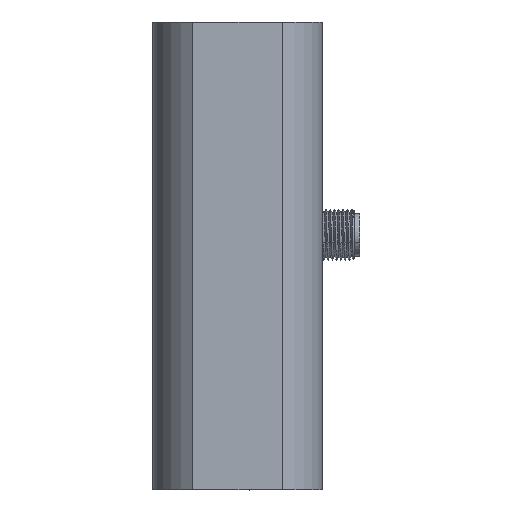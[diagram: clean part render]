
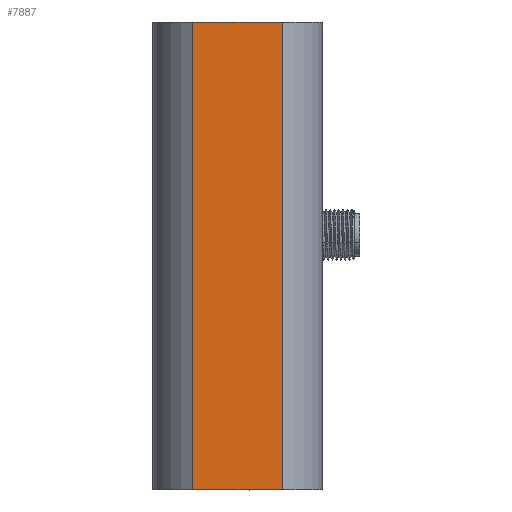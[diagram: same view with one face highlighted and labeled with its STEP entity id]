
A CAD part, front view. The second image highlights one B-rep face of the part: STEP entity #7887.
In plain terms, the highlighted planar face has unit normal (0, -1, 0).
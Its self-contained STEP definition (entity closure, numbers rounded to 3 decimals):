
#5795=FACE_OUTER_BOUND('',#9939,.T.);
#7887=ADVANCED_FACE('',(#5795),#8292,.F.);
#8292=PLANE('',#22849);
#9939=EDGE_LOOP('',(#15257,#15258,#15259,#15260));
#15257=ORIENTED_EDGE('',*,*,#19152,.T.);
#15258=ORIENTED_EDGE('',*,*,#19155,.T.);
#15259=ORIENTED_EDGE('',*,*,#19144,.T.);
#15260=ORIENTED_EDGE('',*,*,#19150,.F.);
#16806=VERTEX_POINT('',#42938);
#16807=VERTEX_POINT('',#42939);
#16811=VERTEX_POINT('',#42949);
#16813=VERTEX_POINT('',#42955);
#19144=EDGE_CURVE('',#16806,#16807,#20227,.T.);
#19150=EDGE_CURVE('',#16811,#16807,#20229,.T.);
#19152=EDGE_CURVE('',#16811,#16813,#20231,.T.);
#19155=EDGE_CURVE('',#16813,#16806,#20233,.T.);
#20227=LINE('',#42937,#21399);
#20229=LINE('',#42951,#21401);
#20231=LINE('',#42954,#21403);
#20233=LINE('',#42960,#21405);
#21399=VECTOR('',#26811,1.);
#21401=VECTOR('',#26823,1.);
#21403=VECTOR('',#26827,1.);
#21405=VECTOR('',#26833,1.);
#22849=AXIS2_PLACEMENT_3D('',#46488,#26895,#26896);
#26811=DIRECTION('',(0.,0.,-1.));
#26823=DIRECTION('',(-1.,0.,0.));
#26827=DIRECTION('',(0.,0.,1.));
#26833=DIRECTION('',(-1.,0.,0.));
#26895=DIRECTION('',(0.,1.,0.));
#26896=DIRECTION('',(-1.,0.,0.));
#42937=CARTESIAN_POINT('',(-10.551,-18.5,77.5));
#42938=CARTESIAN_POINT('',(-10.551,-18.5,193.));
#42939=CARTESIAN_POINT('',(-10.551,-18.5,83.));
#42949=CARTESIAN_POINT('',(10.52,-18.5,83.));
#42951=CARTESIAN_POINT('',(-0.016,-18.5,83.));
#42954=CARTESIAN_POINT('',(10.52,-18.5,77.5));
#42955=CARTESIAN_POINT('',(10.52,-18.5,193.));
#42960=CARTESIAN_POINT('',(-0.016,-18.5,193.));
#46488=CARTESIAN_POINT('',(-0.016,-18.5,138.));
